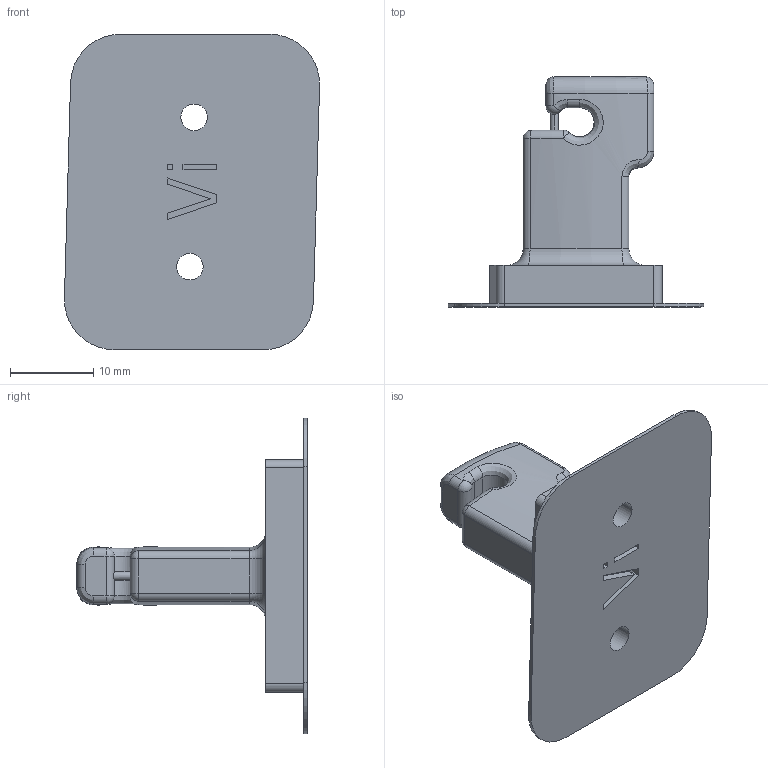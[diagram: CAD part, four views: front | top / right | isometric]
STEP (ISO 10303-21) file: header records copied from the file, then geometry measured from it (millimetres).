
FILE_DESCRIPTION((''),'2;1');
FILE_NAME('0000200911','2024-01-10T08:39:58',('Wyndorps'),(''),'CREO PARAMETRIC BY PTC INC, 2022484','CREO PARAMETRIC BY PTC INC, 2022484','');
FILE_SCHEMA(('CONFIG_CONTROL_DESIGN'));
Length unit declared in the file: millimetre
Products named in the file (1): 0000200911
Bounding box: 30.74 x 27.75 x 38 mm (x, y, z)
Volume: 4743.9 mm3; surface area: 3644.2 mm2
Topology: 1 solids, 1 shells, 105 faces, 246 edges, 148 vertices
Faces by surface type: plane 36, cylinder 35, bspline 12, torus 12, sphere 6, cone 4
Entity records: 4255 total; most frequent: CARTESIAN_POINT 1830, DIRECTION 504, ORIENTED_EDGE 492, EDGE_CURVE 246, AXIS2_PLACEMENT_3D 191, VERTEX_POINT 148, VECTOR 122, LINE 122
